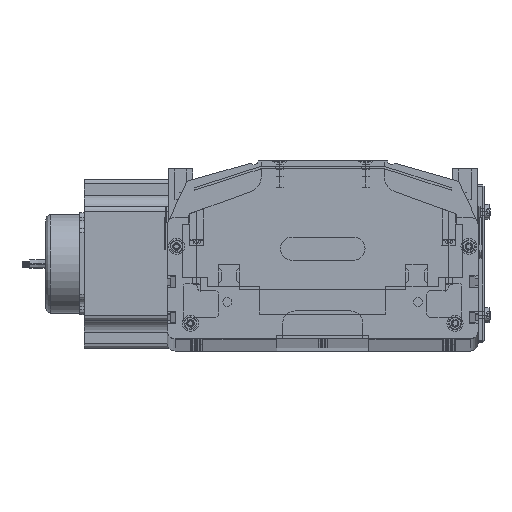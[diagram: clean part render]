
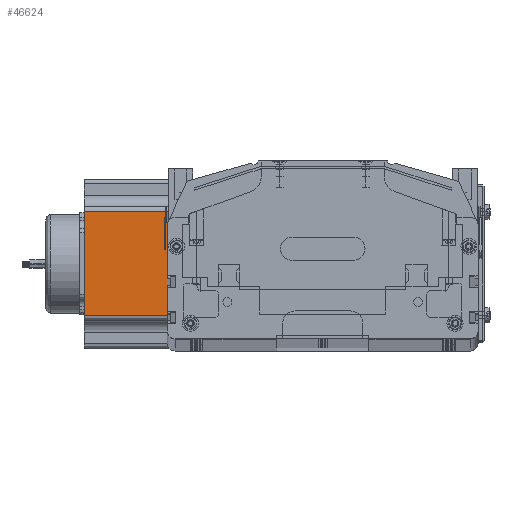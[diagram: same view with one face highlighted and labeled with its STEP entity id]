
A CAD part, top view. The second image highlights one B-rep face of the part: STEP entity #46624.
In plain terms, the highlighted planar face has unit normal (0, 0, 1) as drawn and (0, -1, 0) by its records, which use the part's own axes.
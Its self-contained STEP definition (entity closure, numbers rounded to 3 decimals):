
#46332 = VERTEX_POINT ( 'NONE', #95403 ) ;
#46462 = VERTEX_POINT ( 'NONE', #95201 ) ;
#46624 = ADVANCED_FACE ( 'NONE', ( #95913 ), #95877, .F. ) ;
#46626 = ORIENTED_EDGE ( 'NONE', *, *, #46637, .F. ) ;
#46628 = VERTEX_POINT ( 'NONE', #95853 ) ;
#46629 = ORIENTED_EDGE ( 'NONE', *, *, #46632, .T. ) ;
#46630 = EDGE_CURVE ( 'NONE', #46651, #46462, #95796, .T. ) ;
#46632 = EDGE_CURVE ( 'NONE', #46332, #46651, #95790, .T. ) ;
#46635 = ORIENTED_EDGE ( 'NONE', *, *, #46640, .T. ) ;
#46636 = ORIENTED_EDGE ( 'NONE', *, *, #46630, .T. ) ;
#46637 = EDGE_CURVE ( 'NONE', #46628, #46462, #95817, .T. ) ;
#46640 = EDGE_CURVE ( 'NONE', #46628, #46332, #95709, .T. ) ;
#46651 = VERTEX_POINT ( 'NONE', #95736 ) ;
#46654 = EDGE_LOOP ( 'NONE', ( #46629, #46636, #46626, #46635 ) ) ;
#95201 = CARTESIAN_POINT ( 'NONE',  ( 88.952, 0., 160.5 ) ) ;
#95403 = CARTESIAN_POINT ( 'NONE',  ( 21.048, 0., 0. ) ) ;
#95702 = DIRECTION ( 'NONE',  ( 0., 0., -1. ) ) ;
#95704 = VECTOR ( 'NONE', #95702, 1000. ) ;
#95705 = CARTESIAN_POINT ( 'NONE',  ( 21.048, 0., 160.5 ) ) ;
#95708 = VECTOR ( 'NONE', #95800, 1000. ) ;
#95709 = LINE ( 'NONE', #95705, #95704 ) ;
#95736 = CARTESIAN_POINT ( 'NONE',  ( 88.952, 0., 0. ) ) ;
#95786 = DIRECTION ( 'NONE',  ( 1., 0., 0. ) ) ;
#95787 = VECTOR ( 'NONE', #95786, 1000. ) ;
#95788 = CARTESIAN_POINT ( 'NONE',  ( 0., 0., 0. ) ) ;
#95790 = LINE ( 'NONE', #95788, #95787 ) ;
#95792 = DIRECTION ( 'NONE',  ( 0., 0., 1. ) ) ;
#95793 = VECTOR ( 'NONE', #95792, 1000. ) ;
#95794 = CARTESIAN_POINT ( 'NONE',  ( 88.952, 0., 160.5 ) ) ;
#95796 = LINE ( 'NONE', #95794, #95793 ) ;
#95798 = DIRECTION ( 'NONE',  ( 0., 0., 1. ) ) ;
#95800 = DIRECTION ( 'NONE',  ( 1., 0., 0. ) ) ;
#95801 = CARTESIAN_POINT ( 'NONE',  ( 0., 0., 160.5 ) ) ;
#95808 = AXIS2_PLACEMENT_3D ( 'NONE', #95900, #95872, #95798 ) ;
#95817 = LINE ( 'NONE', #95801, #95708 ) ;
#95853 = CARTESIAN_POINT ( 'NONE',  ( 21.048, 0., 160.5 ) ) ;
#95872 = DIRECTION ( 'NONE',  ( 0., 1., 0. ) ) ;
#95877 = PLANE ( 'NONE',  #95808 ) ;
#95900 = CARTESIAN_POINT ( 'NONE',  ( 0., 0., 160.5 ) ) ;
#95913 = FACE_OUTER_BOUND ( 'NONE', #46654, .T. ) ;
